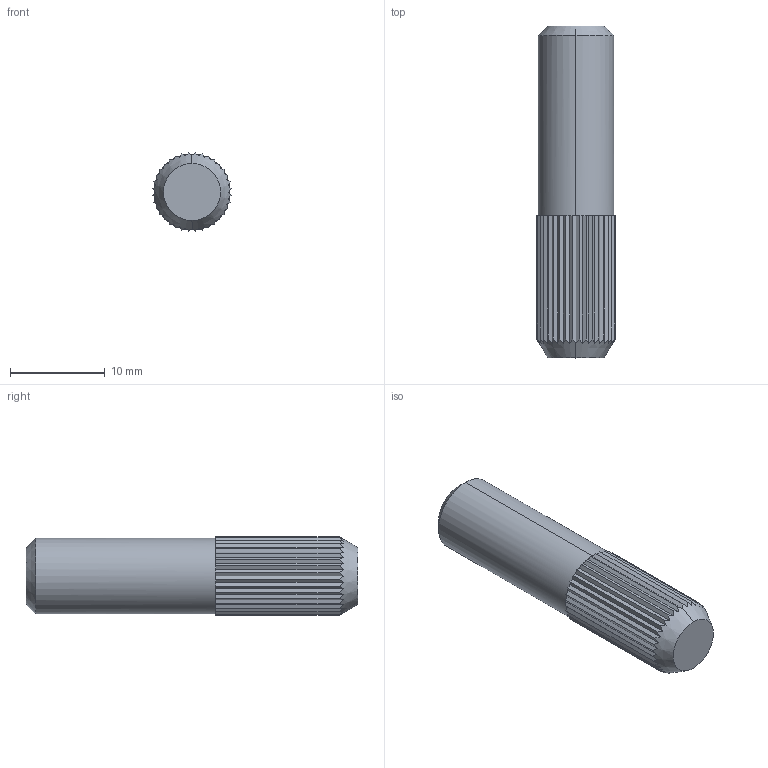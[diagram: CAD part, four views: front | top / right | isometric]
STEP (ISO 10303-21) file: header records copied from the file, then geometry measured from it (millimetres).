
FILE_DESCRIPTION (( 'STEP AP203' ), '1' );
FILE_NAME ('013.100.024.STEP', '2020-11-02T09:25:00', ( '' ), ( '' ), 'SwSTEP 2.0', 'SolidWorks 2018', '' );
FILE_SCHEMA (( 'CONFIG_CONTROL_DESIGN' ));
Length unit declared in the file: millimetre
Products named in the file (1): 013.100.024
Bounding box: 8.27 x 35 x 8.27 mm (x, y, z)
Volume: 1734.6 mm3; surface area: 1022.2 mm2
Topology: 1 solids, 1 shells, 152 faces, 374 edges, 224 vertices
Faces by surface type: plane 146, cone 4, cylinder 2
Entity records: 4519 total; most frequent: CARTESIAN_POINT 967, ORIENTED_EDGE 748, DIRECTION 688, EDGE_CURVE 374, AXIS2_PLACEMENT_3D 233, VERTEX_POINT 224, VECTOR 222, LINE 222
